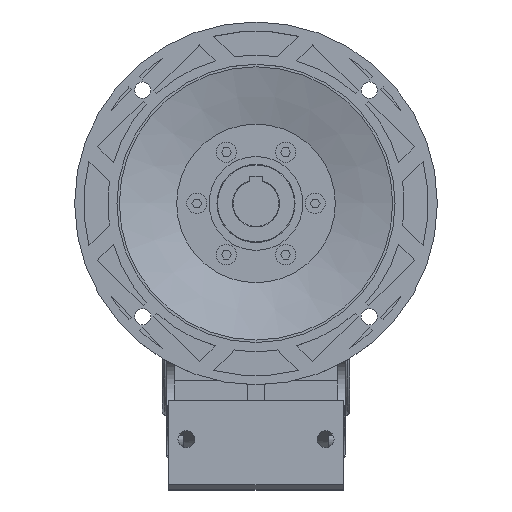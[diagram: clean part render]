
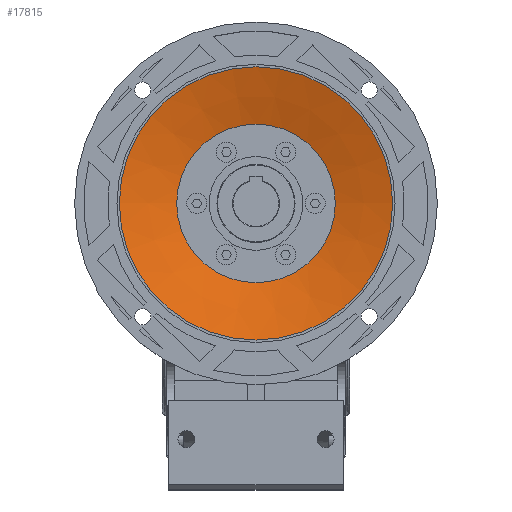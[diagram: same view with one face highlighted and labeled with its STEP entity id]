
A CAD part, top view. The second image highlights one B-rep face of the part: STEP entity #17815.
In plain terms, the highlighted conical face has half-angle 74.114 degrees and reference radius 65.562 mm.
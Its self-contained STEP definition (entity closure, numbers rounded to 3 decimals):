
#134=CONICAL_SURFACE('',#19367,65.563,1.294);
#1825=LINE('',#29361,#3536);
#3536=VECTOR('',#24105,65.563);
#4923=FACE_OUTER_BOUND('',#6021,.T.);
#6021=EDGE_LOOP('',(#15269,#15270,#15271,#15272));
#6612=CIRCLE('',#19354,113.);
#6619=CIRCLE('',#19368,65.563);
#8181=VERTEX_POINT('',#29334);
#8188=VERTEX_POINT('',#29359);
#10546=EDGE_CURVE('',#8181,#8181,#6612,.T.);
#10557=EDGE_CURVE('',#8188,#8188,#6619,.T.);
#10558=EDGE_CURVE('',#8188,#8181,#1825,.T.);
#15269=ORIENTED_EDGE('',*,*,#10557,.T.);
#15270=ORIENTED_EDGE('',*,*,#10558,.T.);
#15271=ORIENTED_EDGE('',*,*,#10546,.F.);
#15272=ORIENTED_EDGE('',*,*,#10558,.F.);
#17815=ADVANCED_FACE('',(#4923),#134,.F.);
#19354=AXIS2_PLACEMENT_3D('',#29335,#24071,#24072);
#19367=AXIS2_PLACEMENT_3D('',#29358,#24101,#24102);
#19368=AXIS2_PLACEMENT_3D('',#29360,#24103,#24104);
#24071=DIRECTION('center_axis',(0.,0.,
-1.));
#24072=DIRECTION('ref_axis',(-1.,0.,0.));
#24101=DIRECTION('center_axis',(0.,0.,
1.));
#24102=DIRECTION('ref_axis',(1.,0.,0.));
#24103=DIRECTION('center_axis',(0.,0.,
-1.));
#24104=DIRECTION('ref_axis',(-1.,0.,0.));
#24105=DIRECTION('',(-0.962,0.,0.274));
#29334=CARTESIAN_POINT('',(122.275,762.327,177.11));
#29335=CARTESIAN_POINT('Origin',(235.275,762.327,177.11));
#29358=CARTESIAN_POINT('Origin',(235.275,762.327,163.61));
#29359=CARTESIAN_POINT('',(169.712,762.327,163.61));
#29360=CARTESIAN_POINT('Origin',(235.275,762.327,163.61));
#29361=CARTESIAN_POINT('',(169.712,762.327,163.61));
